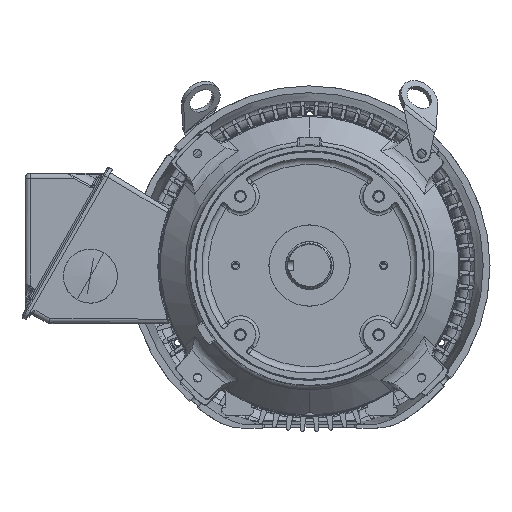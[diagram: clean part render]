
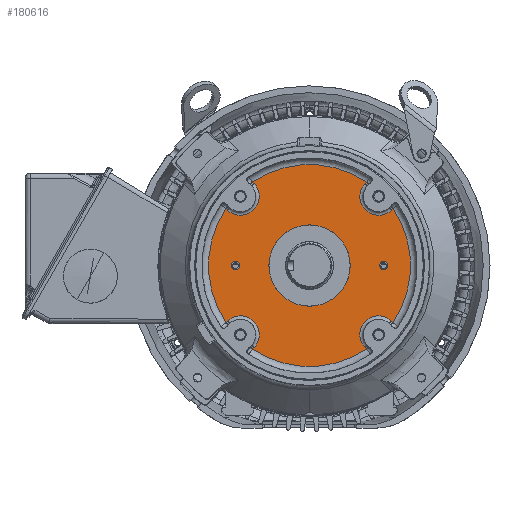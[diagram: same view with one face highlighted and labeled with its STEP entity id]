
A CAD part, top view. The second image highlights one B-rep face of the part: STEP entity #180616.
In plain terms, the highlighted planar face has unit normal (0, 0, 1) as drawn and (0, 0, -1) by its records, which use the part's own axes.
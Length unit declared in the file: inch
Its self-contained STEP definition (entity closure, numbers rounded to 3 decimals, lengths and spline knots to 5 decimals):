
#173772=CARTESIAN_POINT('',(0.,0.,-2.266));
#173773=DIRECTION('',(0.,0.,-1.));
#173774=DIRECTION('',(-0.827,-0.563,0.));
#173775=AXIS2_PLACEMENT_3D('',#173772,#173773,#173774);
#173787=CARTESIAN_POINT('',(0.,0.,-2.266));
#173788=DIRECTION('',(0.,0.,-1.));
#173789=DIRECTION('',(0.563,-0.827,0.));
#173790=AXIS2_PLACEMENT_3D('',#173787,#173788,#173789);
#173792=CARTESIAN_POINT('',(0.,0.,-2.266));
#173793=DIRECTION('',(0.,0.,-1.));
#173794=DIRECTION('',(-0.563,0.827,0.));
#173795=AXIS2_PLACEMENT_3D('',#173792,#173793,#173794);
#173802=CARTESIAN_POINT('',(0.,0.,-2.266));
#173803=DIRECTION('',(0.,0.,-1.));
#173804=DIRECTION('',(0.827,0.563,0.));
#173805=AXIS2_PLACEMENT_3D('',#173802,#173803,#173804);
#173827=CARTESIAN_POINT('',(-3.09494,-2.10574,
-2.266));
#173846=DIRECTION('',(-0.725,-0.688,
0.));
#173847=VECTOR('',#173846,0.07073);
#173848=CARTESIAN_POINT('',(-3.04364,-2.05705,-2.266));
#173849=LINE('',#173848,#173847);
#173860=CARTESIAN_POINT('',(-2.56326,-2.56326,-2.266));
#173861=DIRECTION('',(0.,0.,1.));
#173862=DIRECTION('',(0.725,-0.688,0.));
#173863=AXIS2_PLACEMENT_3D('',#173860,#173861,#173862);
#173874=DIRECTION('',(0.688,0.725,0.));
#173875=VECTOR('',#173874,0.07073);
#173876=CARTESIAN_POINT('',(-2.10574,-3.09494,
-2.266));
#173877=LINE('',#173876,#173875);
#173878=CARTESIAN_POINT('',(2.75,0.,-2.266));
#173879=DIRECTION('',(0.,0.,1.));
#173880=DIRECTION('',(1.,0.,0.));
#173881=AXIS2_PLACEMENT_3D('',#173878,#173879,#173880);
#173883=CARTESIAN_POINT('',(2.75,0.,-2.266));
#173884=DIRECTION('',(0.,0.,1.));
#173885=DIRECTION('',(-1.,0.,0.));
#173886=AXIS2_PLACEMENT_3D('',#173883,#173884,#173885);
#173888=CARTESIAN_POINT('',(-2.75,0.,-2.266));
#173889=DIRECTION('',(0.,0.,1.));
#173890=DIRECTION('',(-1.,0.,0.));
#173891=AXIS2_PLACEMENT_3D('',#173888,#173889,#173890);
#173893=CARTESIAN_POINT('',(-2.75,0.,-2.266));
#173894=DIRECTION('',(0.,0.,1.));
#173895=DIRECTION('',(1.,0.,0.));
#173896=AXIS2_PLACEMENT_3D('',#173893,#173894,#173895);
#173906=CARTESIAN_POINT('',(0.,0.,-2.266));
#173907=DIRECTION('',(0.,0.,-1.));
#173908=DIRECTION('',(0.,1.,0.));
#173909=AXIS2_PLACEMENT_3D('',#173906,#173907,#173908);
#173911=CARTESIAN_POINT('',(0.,0.,-2.266));
#173912=DIRECTION('',(0.,0.,1.));
#173913=DIRECTION('',(0.,1.,0.));
#173914=AXIS2_PLACEMENT_3D('',#173911,#173912,#173913);
#176545=DIRECTION('',(0.688,-0.725,0.));
#176546=VECTOR('',#176545,0.07073);
#176547=CARTESIAN_POINT('',(2.05705,-3.04364,-2.266));
#176548=LINE('',#176547,#176546);
#176609=CARTESIAN_POINT('',(3.09494,-2.10574,
-2.266));
#176620=DIRECTION('',(-0.725,0.688,0.));
#176621=VECTOR('',#176620,0.07073);
#176622=CARTESIAN_POINT('',(3.09494,-2.10574,
-2.266));
#176623=LINE('',#176622,#176621);
#176634=CARTESIAN_POINT('',(2.56326,-2.56326,-2.266));
#176635=DIRECTION('',(0.,0.,1.));
#176636=DIRECTION('',(0.688,0.725,0.));
#176637=AXIS2_PLACEMENT_3D('',#176634,#176635,#176636);
#176699=DIRECTION('',(0.725,0.688,0.));
#176700=VECTOR('',#176699,0.07073);
#176701=CARTESIAN_POINT('',(3.04364,2.05705,-2.266));
#176702=LINE('',#176701,#176700);
#176763=CARTESIAN_POINT('',(2.10574,3.09494,
-2.266));
#176774=DIRECTION('',(-0.688,-0.725,0.));
#176775=VECTOR('',#176774,0.07073);
#176776=CARTESIAN_POINT('',(2.10574,3.09494,
-2.266));
#176777=LINE('',#176776,#176775);
#176788=CARTESIAN_POINT('',(2.56326,2.56326,-2.266));
#176789=DIRECTION('',(0.,0.,1.));
#176790=DIRECTION('',(-0.725,0.688,0.));
#176791=AXIS2_PLACEMENT_3D('',#176788,#176789,#176790);
#176853=DIRECTION('',(-0.688,0.725,0.));
#176854=VECTOR('',#176853,0.07073);
#176855=CARTESIAN_POINT('',(-2.05705,3.04364,-2.266));
#176856=LINE('',#176855,#176854);
#176926=CARTESIAN_POINT('',(-2.56326,2.56326,-2.266));
#176927=DIRECTION('',(0.,0.,1.));
#176928=DIRECTION('',(-0.688,-0.725,0.));
#176929=AXIS2_PLACEMENT_3D('',#176926,#176927,#176928);
#176940=DIRECTION('',(0.725,-0.688,0.));
#176941=VECTOR('',#176940,0.07073);
#176942=CARTESIAN_POINT('',(-3.09494,2.10574,
-2.266));
#176943=LINE('',#176942,#176941);
#176967=CARTESIAN_POINT('',(-3.09494,2.10574,
-2.266));
#178490=VERTEX_POINT('',#173827);
#178494=CARTESIAN_POINT('',(-3.04364,-2.05705,-2.266));
#178495=VERTEX_POINT('',#178494);
#178498=CARTESIAN_POINT('',(-2.05705,-3.04364,-2.266));
#178499=VERTEX_POINT('',#178498);
#178502=CARTESIAN_POINT('',(-2.10574,-3.09494,
-2.266));
#178503=VERTEX_POINT('',#178502);
#178509=VERTEX_POINT('',#176967);
#178512=CARTESIAN_POINT('',(-3.04364,2.05705,-2.266));
#178513=VERTEX_POINT('',#178512);
#178516=CARTESIAN_POINT('',(-2.05705,3.04364,-2.266));
#178517=VERTEX_POINT('',#178516);
#178520=CARTESIAN_POINT('',(-2.10574,3.09494,
-2.266));
#178521=VERTEX_POINT('',#178520);
#178527=VERTEX_POINT('',#176763);
#178530=CARTESIAN_POINT('',(2.05705,3.04364,-2.266));
#178531=VERTEX_POINT('',#178530);
#178534=CARTESIAN_POINT('',(3.04364,2.05705,-2.266));
#178535=VERTEX_POINT('',#178534);
#178538=CARTESIAN_POINT('',(3.09494,2.10574,
-2.266));
#178539=VERTEX_POINT('',#178538);
#178545=VERTEX_POINT('',#176609);
#178548=CARTESIAN_POINT('',(3.04364,-2.05705,-2.266));
#178549=VERTEX_POINT('',#178548);
#178552=CARTESIAN_POINT('',(2.05705,-3.04364,-2.266));
#178553=VERTEX_POINT('',#178552);
#178556=CARTESIAN_POINT('',(2.10574,-3.09494,
-2.266));
#178557=VERTEX_POINT('',#178556);
#178730=CARTESIAN_POINT('',(2.9055,0.,-2.266));
#178731=CARTESIAN_POINT('',(2.5945,0.,-2.266));
#178732=VERTEX_POINT('',#178730);
#178733=VERTEX_POINT('',#178731);
#178734=CARTESIAN_POINT('',(-2.9055,0.,-2.266));
#178735=CARTESIAN_POINT('',(-2.5945,0.,-2.266));
#178736=VERTEX_POINT('',#178734);
#178737=VERTEX_POINT('',#178735);
#178917=CARTESIAN_POINT('',(0.,1.5075,-2.266));
#178919=VERTEX_POINT('',#178917);
#178921=CARTESIAN_POINT('',(0.,-1.5075,-2.266));
#178923=VERTEX_POINT('',#178921);
#180566=CARTESIAN_POINT('',(0.,0.,-2.266));
#180567=DIRECTION('',(0.,0.,1.));
#180568=DIRECTION('',(0.,1.,0.));
#180569=AXIS2_PLACEMENT_3D('',#180566,#180567,#180568);
#180570=PLANE('',#180569);
#180571=ORIENTED_EDGE('',*,*,#180533,.F.);
#180572=ORIENTED_EDGE('',*,*,#180547,.F.);
#180573=ORIENTED_EDGE('',*,*,#180560,.F.);
#180574=ORIENTED_EDGE('',*,*,#180441,.F.);
#180576=ORIENTED_EDGE('',*,*,#180575,.F.);
#180578=ORIENTED_EDGE('',*,*,#180577,.F.);
#180580=ORIENTED_EDGE('',*,*,#180579,.F.);
#180581=ORIENTED_EDGE('',*,*,#180468,.F.);
#180583=ORIENTED_EDGE('',*,*,#180582,.F.);
#180585=ORIENTED_EDGE('',*,*,#180584,.F.);
#180587=ORIENTED_EDGE('',*,*,#180586,.F.);
#180588=ORIENTED_EDGE('',*,*,#180453,.F.);
#180590=ORIENTED_EDGE('',*,*,#180589,.F.);
#180592=ORIENTED_EDGE('',*,*,#180591,.F.);
#180594=ORIENTED_EDGE('',*,*,#180593,.F.);
#180595=ORIENTED_EDGE('',*,*,#180424,.F.);
#180596=EDGE_LOOP('',(#180571,#180572,#180573,#180574,#180576,#180578,#180580,
#180581,#180583,#180585,#180587,#180588,#180590,#180592,#180594,#180595));
#180597=FACE_OUTER_BOUND('',#180596,.F.);
#180599=ORIENTED_EDGE('',*,*,#180598,.F.);
#180601=ORIENTED_EDGE('',*,*,#180600,.F.);
#180602=EDGE_LOOP('',(#180599,#180601));
#180603=FACE_BOUND('',#180602,.F.);
#180605=ORIENTED_EDGE('',*,*,#180604,.F.);
#180607=ORIENTED_EDGE('',*,*,#180606,.F.);
#180608=EDGE_LOOP('',(#180605,#180607));
#180609=FACE_BOUND('',#180608,.F.);
#180611=ORIENTED_EDGE('',*,*,#180610,.T.);
#180613=ORIENTED_EDGE('',*,*,#180612,.F.);
#180614=EDGE_LOOP('',(#180611,#180613));
#180615=FACE_BOUND('',#180614,.F.);
#180616=ADVANCED_FACE('',(#180597,#180603,#180609,#180615),#180570,.F.);
#173776=CIRCLE('',#173775,3.74337);
#173791=CIRCLE('',#173790,3.74337);
#173796=CIRCLE('',#173795,3.74337);
#173806=CIRCLE('',#173805,3.74337);
#173864=CIRCLE('',#173863,0.69786);
#173882=CIRCLE('',#173881,0.1555);
#173887=CIRCLE('',#173886,0.1555);
#173892=CIRCLE('',#173891,0.1555);
#173897=CIRCLE('',#173896,0.1555);
#173910=CIRCLE('',#173909,1.5075);
#173915=CIRCLE('',#173914,1.5075);
#176638=CIRCLE('',#176637,0.69786);
#176792=CIRCLE('',#176791,0.69786);
#176930=CIRCLE('',#176929,0.69786);
#180424=EDGE_CURVE('',#178490,#178509,#173776,.T.);
#180441=EDGE_CURVE('',#178557,#178503,#173791,.T.);
#180453=EDGE_CURVE('',#178521,#178527,#173796,.T.);
#180468=EDGE_CURVE('',#178539,#178545,#173806,.T.);
#180533=EDGE_CURVE('',#178495,#178490,#173849,.T.);
#180547=EDGE_CURVE('',#178499,#178495,#173864,.T.);
#180560=EDGE_CURVE('',#178503,#178499,#173877,.T.);
#180575=EDGE_CURVE('',#178553,#178557,#176548,.T.);
#180577=EDGE_CURVE('',#178549,#178553,#176638,.T.);
#180579=EDGE_CURVE('',#178545,#178549,#176623,.T.);
#180582=EDGE_CURVE('',#178535,#178539,#176702,.T.);
#180584=EDGE_CURVE('',#178531,#178535,#176792,.T.);
#180586=EDGE_CURVE('',#178527,#178531,#176777,.T.);
#180589=EDGE_CURVE('',#178517,#178521,#176856,.T.);
#180591=EDGE_CURVE('',#178513,#178517,#176930,.T.);
#180593=EDGE_CURVE('',#178509,#178513,#176943,.T.);
#180598=EDGE_CURVE('',#178732,#178733,#173882,.T.);
#180600=EDGE_CURVE('',#178733,#178732,#173887,.T.);
#180604=EDGE_CURVE('',#178736,#178737,#173892,.T.);
#180606=EDGE_CURVE('',#178737,#178736,#173897,.T.);
#180610=EDGE_CURVE('',#178919,#178923,#173910,.T.);
#180612=EDGE_CURVE('',#178919,#178923,#173915,.T.);
